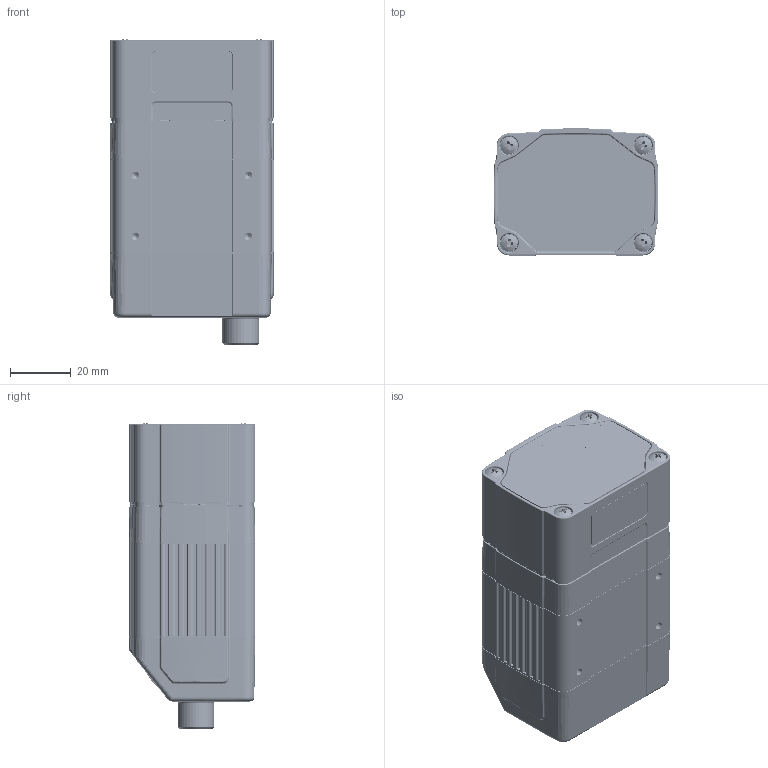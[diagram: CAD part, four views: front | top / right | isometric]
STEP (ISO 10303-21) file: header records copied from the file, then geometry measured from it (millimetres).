
FILE_DESCRIPTION (( 'STEP AP214' ), '1' );
FILE_NAME ('820-10155-1R_DM360+HPIL.STEP', '2017-03-10T08:37:05', ( '' ), ( '' ), 'SwSTEP 2.0', 'SolidWorks 2016', '' );
FILE_SCHEMA (( 'AUTOMOTIVE_DESIGN' ));
Length unit declared in the file: millimetre
Products named in the file (27): 372-1206R_die cast; 197-1004R_95060A320; 820-10155-1R_DM360+HPIL; 585-10094R_Standard; 196-10010R_Standard; 196-1084R_Standard; 196-10033R_Standard; 177-10021R_Standard; 177-10023R_compressed; 200-10013_Aimer_board_Standard; Gradconn_14_pin_receiver_part_Standard; AT70_Aimer_LED_Standard; 200-10013_Illumination_board_Standard; Gradconn_14_pin_connector_Standard; OSRAM_OSLON_SSL_Lx_CP7P_061009_geometry_Standard; Empty OWL reader_Standard; 372-10098R_Standard; 196-1077R_Standard; 114-10007R_Lens only; 177-1116R_Standard; 114-10042R_Standard; 173-1008R_Standard; 177-10022R_compressed; 372-1212R_die cast; 372-10078R_Standard; 371-1066R_Standard; 372-10077R_Standard
Assembly tree (56 placements, depth 3):
  820-10155-1R_DM360+HPIL
    372-10077R_Standard
    372-10078R_Standard
    177-10022R_compressed
    114-10042R_Standard
    114-10007R_Lens only  x8
    372-10098R_Standard  x2
    200-10013_Illumination_board_Standard
      OSRAM_OSLON_SSL_Lx_CP7P_061009_geometry_Standard  x8
      Gradconn_14_pin_connector_Standard
    200-10013_Aimer_board_Standard
      AT70_Aimer_LED_Standard  x2
      Gradconn_14_pin_receiver_part_Standard
    177-10023R_compressed
    177-10021R_Standard
    196-10033R_Standard  x4
    196-1084R_Standard  x2
    196-10010R_Standard  x4
    585-10094R_Standard
    197-1004R_95060A320  x4
    Empty OWL reader_Standard
      372-1206R_die cast
      371-1066R_Standard
      372-1212R_die cast
      173-1008R_Standard
      177-1116R_Standard  x2
      196-1077R_Standard  x4
Bounding box: 54 x 41.6 x 100.22 mm (x, y, z)
Volume: 64756.3 mm3; surface area: 80317.3 mm2
Topology: 71 solids, 71 shells, 8386 faces, 21784 edges, 13572 vertices
Faces by surface type: plane 2858, cylinder 2012, bspline 1641, cone 1299, torus 378, sphere 198
Entity records: 229296 total; most frequent: CARTESIAN_POINT 71786, ORIENTED_EDGE 31260, DIRECTION 26604, EDGE_CURVE 15630, VERTEX_POINT 9950, AXIS2_PLACEMENT_3D 9852, LINE 6900, VECTOR 6900
